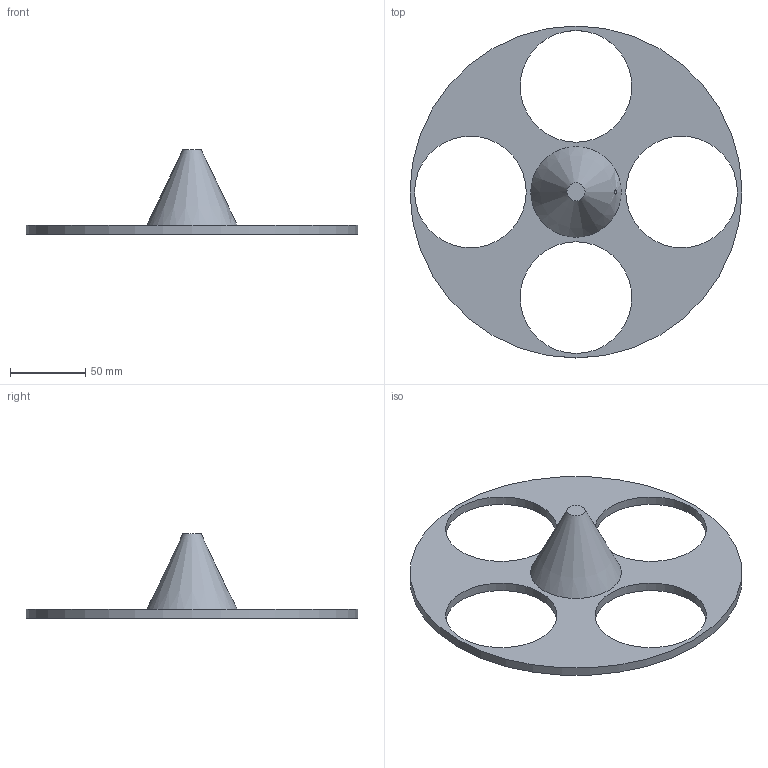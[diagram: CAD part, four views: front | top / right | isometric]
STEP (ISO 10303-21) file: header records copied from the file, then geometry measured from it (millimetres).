
FILE_DESCRIPTION(('Open CASCADE Model'),'2;1');
FILE_NAME('Open CASCADE Shape Model','2026-10-06T19:56:10',('Author'),( 'Open CASCADE'),'Open CASCADE STEP processor 7.9','Open CASCADE 7.9' ,'Unknown');
FILE_SCHEMA(('AUTOMOTIVE_DESIGN { 1 0 10303 214 1 1 1 1 }'));
Length unit declared in the file: millimetre
Products named in the file (1): Open CASCADE STEP translator 7.9 36
Bounding box: 220 x 220 x 56 mm (x, y, z)
Volume: 182656.9 mm3; surface area: 55485 mm2
Topology: 1 solids, 1 shells, 12 faces, 30 edges, 20 vertices
Faces by surface type: cylinder 7, plane 4, cone 1
Full cylindrical faces by diameter (mm): 2.8 x1, 5.1 x1, 74 x4, 220 x1
Entity records: 1451 total; most frequent: CARTESIAN_POINT 837, DIRECTION 105, ORIENTED_EDGE 60, PCURVE 60, DEFINITIONAL_REPRESENTATION 60, LINE 38, VECTOR 38, EDGE_CURVE 30
